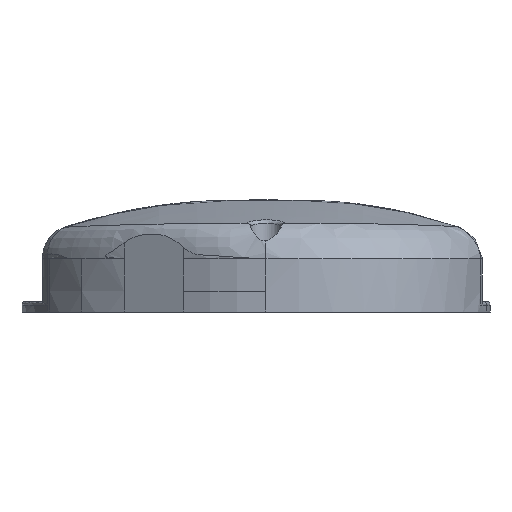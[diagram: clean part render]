
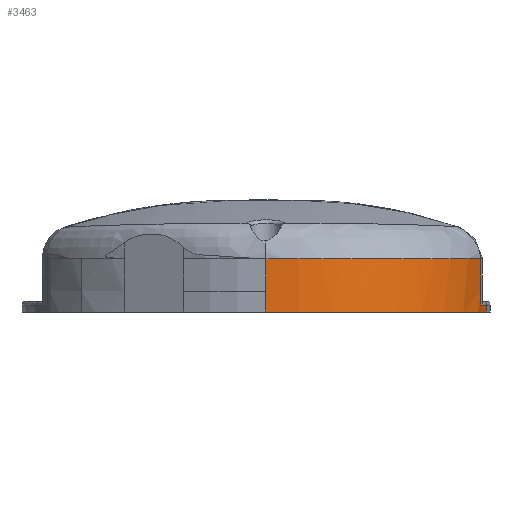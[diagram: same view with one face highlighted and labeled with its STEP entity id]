
A CAD part, left-side view. The second image highlights one B-rep face of the part: STEP entity #3463.
In plain terms, the highlighted cylindrical face has radius 59.227 mm (diameter 118.453 mm), a partial arc.
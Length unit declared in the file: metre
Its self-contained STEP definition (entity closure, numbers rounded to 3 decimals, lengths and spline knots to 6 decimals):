
#29=CIRCLE('',#3684,0.059226);
#68=CYLINDRICAL_SURFACE('',#3683,0.059226);
#286=B_SPLINE_CURVE_WITH_KNOTS('',3,(#8265,#8266,#8267,#8268,#8269,#8270,
#8271),.UNSPECIFIED.,.F.,.F.,(4,1,1,1,4),(0.,0.25,0.5,0.75,1.),
 .UNSPECIFIED.);
#377=B_SPLINE_CURVE_WITH_KNOTS('',3,(#11611,#11612,#11613,#11614),
 .UNSPECIFIED.,.F.,.F.,(4,4),(0.,1.),.UNSPECIFIED.);
#378=B_SPLINE_CURVE_WITH_KNOTS('',3,(#11616,#11617,#11618,#11619),
 .UNSPECIFIED.,.F.,.F.,(4,4),(0.,1.),.UNSPECIFIED.);
#379=B_SPLINE_CURVE_WITH_KNOTS('',3,(#11621,#11622,#11623,#11624),
 .UNSPECIFIED.,.F.,.F.,(4,4),(0.,1.),.UNSPECIFIED.);
#380=B_SPLINE_CURVE_WITH_KNOTS('',3,(#11626,#11627,#11628,#11629),
 .UNSPECIFIED.,.F.,.F.,(4,4),(0.,1.),.UNSPECIFIED.);
#870=ORIENTED_EDGE('',*,*,#1927,.T.);
#871=ORIENTED_EDGE('',*,*,#1928,.T.);
#872=ORIENTED_EDGE('',*,*,#1929,.T.);
#873=ORIENTED_EDGE('',*,*,#1930,.T.);
#874=ORIENTED_EDGE('',*,*,#1931,.T.);
#875=ORIENTED_EDGE('',*,*,#1790,.F.);
#876=ORIENTED_EDGE('',*,*,#1932,.F.);
#877=ORIENTED_EDGE('',*,*,#1933,.F.);
#878=ORIENTED_EDGE('',*,*,#1934,.T.);
#1790=EDGE_CURVE('',#2323,#2333,#286,.F.);
#1927=EDGE_CURVE('',#2442,#2443,#2655,.T.);
#1928=EDGE_CURVE('',#2443,#2444,#377,.T.);
#1929=EDGE_CURVE('',#2444,#2445,#378,.T.);
#1930=EDGE_CURVE('',#2445,#2446,#379,.T.);
#1931=EDGE_CURVE('',#2446,#2333,#380,.T.);
#1932=EDGE_CURVE('',#2447,#2323,#2656,.T.);
#1933=EDGE_CURVE('',#2448,#2447,#2657,.T.);
#1934=EDGE_CURVE('',#2448,#2442,#29,.T.);
#2323=VERTEX_POINT('',#7435);
#2333=VERTEX_POINT('',#8272);
#2442=VERTEX_POINT('',#11609);
#2443=VERTEX_POINT('',#11610);
#2444=VERTEX_POINT('',#11615);
#2445=VERTEX_POINT('',#11620);
#2446=VERTEX_POINT('',#11625);
#2447=VERTEX_POINT('',#11631);
#2448=VERTEX_POINT('',#11633);
#2655=LINE('',#11608,#2788);
#2656=LINE('',#11630,#2789);
#2657=LINE('',#11632,#2790);
#2788=VECTOR('',#3923,1.);
#2789=VECTOR('',#3924,1.);
#2790=VECTOR('',#3925,1.);
#2915=EDGE_LOOP('',(#870,#871,#872,#873,#874,#875,#876,#877,#878));
#3166=FACE_BOUND('',#2915,.T.);
#3463=ADVANCED_FACE('',(#3166),#68,.T.);
#3683=AXIS2_PLACEMENT_3D('',#11607,#3921,#3922);
#3684=AXIS2_PLACEMENT_3D('',#11634,#3926,#3927);
#3921=DIRECTION('',(0.,0.,1.));
#3922=DIRECTION('',(-0.801,-0.599,0.));
#3923=DIRECTION('',(0.,0.,1.));
#3924=DIRECTION('',(0.,0.,1.));
#3925=DIRECTION('',(0.,0.,1.));
#3926=DIRECTION('',(0.,0.,1.));
#3927=DIRECTION('',(1.,0.,0.));
#7435=CARTESIAN_POINT('',(-0.068944,0.,0.0095));
#8265=CARTESIAN_POINT('',(-0.027583,-0.06233,0.0095));
#8266=CARTESIAN_POINT('',(-0.034025,-0.060327,0.0095));
#8267=CARTESIAN_POINT('',(-0.046218,-0.054098,0.0095));
#8268=CARTESIAN_POINT('',(-0.060319,-0.039165,0.0095));
#8269=CARTESIAN_POINT('',(-0.0686,-0.02037,0.0095));
#8270=CARTESIAN_POINT('',(-0.069602,-0.006715,0.0095));
#8271=CARTESIAN_POINT('',(-0.068944,0.,0.0095));
#8272=CARTESIAN_POINT('',(-0.027583,-0.06233,0.0095));
#11607=CARTESIAN_POINT('',(-0.01,-0.005774,0.));
#11608=CARTESIAN_POINT('',(-0.0211,-0.063951,-0.006));
#11609=CARTESIAN_POINT('',(-0.0211,-0.063951,-0.006));
#11610=CARTESIAN_POINT('',(-0.0211,-0.063951,-0.004));
#11611=CARTESIAN_POINT('',(-0.0211,-0.063951,-0.004));
#11612=CARTESIAN_POINT('',(-0.02329,-0.063533,-0.004));
#11613=CARTESIAN_POINT('',(-0.025456,-0.062991,-0.004));
#11614=CARTESIAN_POINT('',(-0.027584,-0.062329,-0.004));
#11615=CARTESIAN_POINT('',(-0.027584,-0.062329,-0.004));
#11616=CARTESIAN_POINT('',(-0.027584,-0.062329,-0.004));
#11617=CARTESIAN_POINT('',(-0.027584,-0.062329,-0.003667));
#11618=CARTESIAN_POINT('',(-0.027584,-0.062329,-0.003333));
#11619=CARTESIAN_POINT('',(-0.027584,-0.062329,-0.003));
#11620=CARTESIAN_POINT('',(-0.027584,-0.062329,-0.003));
#11621=CARTESIAN_POINT('',(-0.027584,-0.062329,-0.003));
#11622=CARTESIAN_POINT('',(-0.027584,-0.062329,-0.002));
#11623=CARTESIAN_POINT('',(-0.027584,-0.062329,-0.001));
#11624=CARTESIAN_POINT('',(-0.027584,-0.062329,0.));
#11625=CARTESIAN_POINT('',(-0.027584,-0.062329,0.));
#11626=CARTESIAN_POINT('',(-0.027584,-0.062329,0.));
#11627=CARTESIAN_POINT('',(-0.027584,-0.062329,0.003167));
#11628=CARTESIAN_POINT('',(-0.027584,-0.062329,0.006333));
#11629=CARTESIAN_POINT('',(-0.027584,-0.062329,0.0095));
#11630=CARTESIAN_POINT('',(-0.068944,0.,0.));
#11631=CARTESIAN_POINT('',(-0.068944,0.,0.));
#11632=CARTESIAN_POINT('',(-0.068944,0.,-0.006));
#11633=CARTESIAN_POINT('',(-0.068944,0.,-0.006));
#11634=CARTESIAN_POINT('',(-0.01,-0.005774,-0.006));
